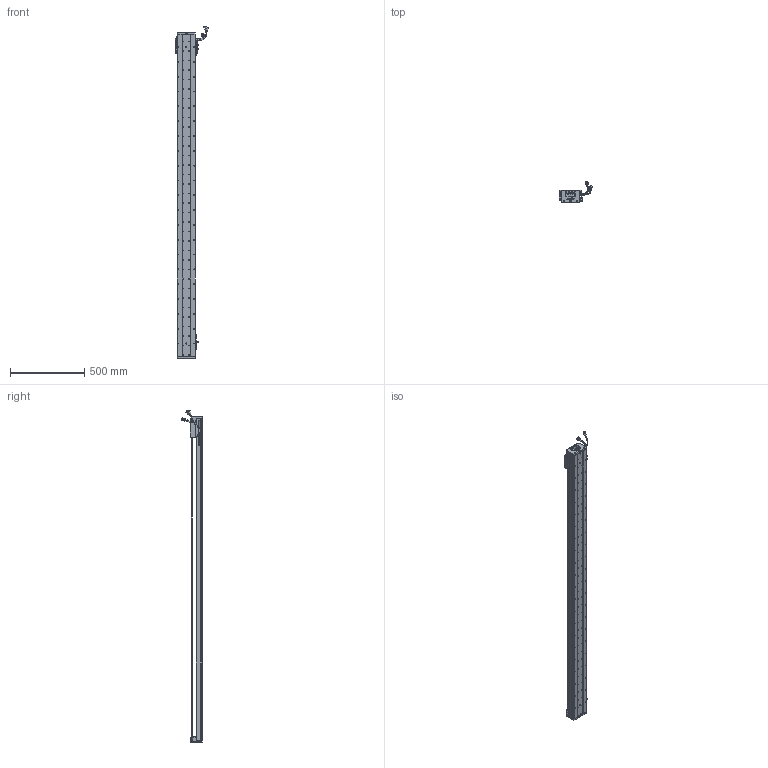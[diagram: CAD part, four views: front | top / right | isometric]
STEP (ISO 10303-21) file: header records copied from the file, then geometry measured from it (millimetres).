
FILE_DESCRIPTION (( 'STEP AP203' ), '1' );
FILE_NAME ('Z1-RY120D-1-L500-B-K.SLDASM_2000.step', '2021-05-17T03:50:02', ( '盈信电脑' ), ( '东莞市道滘镇水果街19号' ), 'SwSTEP 2.0', 'SolidWorks 2016', '' );
FILE_SCHEMA (( 'CONFIG_CONTROL_DESIGN' ));
Length unit declared in the file: millimetre
Products named in the file (37): Z1-RY120-L500詩湍100mm遵_2000; Z1-RY120-500-倰第菁釱_2000; SCREW-M1.6-2; 080黍杅芛假蚾釱21遴; SCREW-M1.6-3; SCALE-Part-2; RY100FB-遵嫖萇覜茼え; 榋妏寠巭燃_暯_M2_2; Z-120詩湍傷裔啣; PSLH080_PSLF2; COVER; HARNESS-Part-2; HARNESS; Z1-RY120铝滑块（21款）; LABEL-Part-1; SCALE-Part-1; Z-RY120D詩湍奻揤裔; 140雄赽晤鎢ん堤盄; PBU_SHEET; SHIELDPLATE; 140蚥薯蝶輸; Z-RY120D詩湍狟揤裔; SEAL-Part-1; SEAL; COVER-Part-1; SCREW-M1.7; LABEL; Z1-RY120D-1-L500-B-K.SLDASM_2000; SCALE; SCREW-M1.6; 672嫖萇羲壽假蚾釱; SCREW-M1.6-1; HOLDER0; 120-Z-臏賑輸盄裔(21遴); SCREW-M1.7-1; 覜茼ん672; HARNESS-Part-1
Assembly tree (43 placements, depth 4):
  Z1-RY120D-1-L500-B-K.SLDASM_2000
    Z1-RY120-500-倰第菁釱_2000
    覜茼ん672  x3
    672嫖萇羲壽假蚾釱  x2
    Z1-RY120铝滑块（21款）
    PSLH080_PSLF2
      SCALE
        SCALE-Part-1
        SCALE-Part-2
      HARNESS
        HARNESS-Part-1
        HARNESS-Part-2
      LABEL
        LABEL-Part-1
      COVER
        COVER-Part-1
      SEAL
        SEAL-Part-1
      榋妏寠巭燃_暯_M2_2
      SHIELDPLATE
      SCREW-M1.7
      SCREW-M1.7-1
      PBU_SHEET
      SCREW-M1.6
      SCREW-M1.6-1
      SCREW-M1.6-2
      SCREW-M1.6-3
      HOLDER0
    080黍杅芛假蚾釱21遴
    120-Z-臏賑輸盄裔(21遴)
    140雄赽晤鎢ん堤盄
    140蚥薯蝶輸  x2
    RY100FB-遵嫖萇覜茼え
    Z-120詩湍傷裔啣  x2
    Z-RY120D詩湍奻揤裔  x2
    Z-RY120D詩湍狟揤裔  x2
    Z1-RY120-L500詩湍100mm遵_2000
Bounding box: 222.88 x 140.94 x 2238.99 mm (x, y, z)
Volume: 5066565.3 mm3; surface area: 1813118.4 mm2
Topology: 38 solids, 38 shells, 3353 faces, 9454 edges, 5968 vertices
Faces by surface type: cylinder 1690, plane 1199, cone 342, torus 69, bspline 53
Entity records: 109831 total; most frequent: CARTESIAN_POINT 32872, ORIENTED_EDGE 15748, DIRECTION 14596, EDGE_CURVE 7874, AXIS2_PLACEMENT_3D 5366, VERTEX_POINT 5088, VECTOR 3864, LINE 3864
